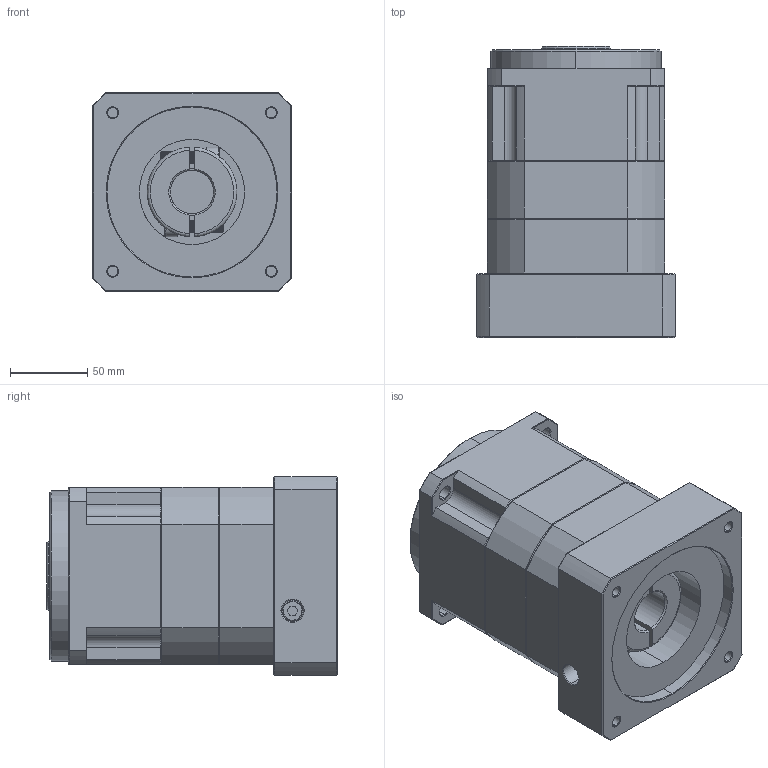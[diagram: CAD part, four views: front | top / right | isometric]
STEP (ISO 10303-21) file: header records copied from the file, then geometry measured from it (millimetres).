
FILE_DESCRIPTION (( 'STEP AP214' ), '1' );
FILE_NAME ('ZPB115-K32-L2-P1-28-110-145-M8.step', '2024-06-12T10:00:59', ( 'Windows 蚚誧' ), ( 'Organization' ), 'SwSTEP 2.0', 'SolidWorks 2016', '' );
FILE_SCHEMA (( 'AUTOMOTIVE_DESIGN' ));
Length unit declared in the file: millimetre
Products named in the file (1): ZPB115-K32-L2-P1-28-110-145-M8
Bounding box: 128 x 188 x 128 mm (x, y, z)
Surface area: 153431.1 mm2 (no closed solid volume)
Topology: 0 solids, 28 shells, 1784 faces, 4819 edges, 3098 vertices
Faces by surface type: plane 922, bspline 374, cone 268, cylinder 220
Entity records: 86179 total; most frequent: CARTESIAN_POINT 37801, ORIENTED_EDGE 9636, DIRECTION 7394, EDGE_CURVE 4819, LINE 3142, VECTOR 3142, VERTEX_POINT 3098, AXIS2_PLACEMENT_3D 2126
